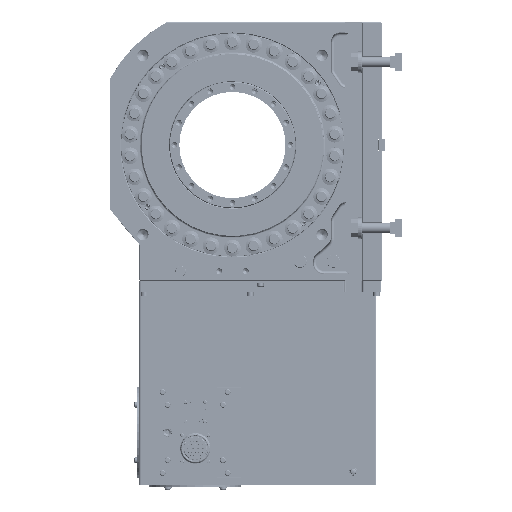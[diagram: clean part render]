
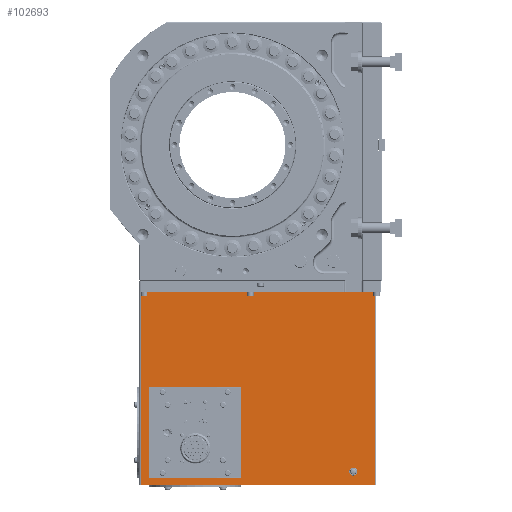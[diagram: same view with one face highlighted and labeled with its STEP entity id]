
A CAD part, left-side view. The second image highlights one B-rep face of the part: STEP entity #102693.
In plain terms, the highlighted planar face has unit normal (-1, 0, 0).
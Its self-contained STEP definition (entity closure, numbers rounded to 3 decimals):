
#295 = EDGE_CURVE ( 'NONE', #48266, #63851, #147151, .T. ) ;
#2418 = EDGE_LOOP ( 'NONE', ( #54733, #79225, #162653, #146783, #128313, #9713, #67542, #101937 ) ) ;
#2476 = AXIS2_PLACEMENT_3D ( 'NONE', #45567, #145572, #135598 ) ;
#3222 = VERTEX_POINT ( 'NONE', #142066 ) ;
#4148 = EDGE_CURVE ( 'NONE', #90103, #100322, #36767, .T. ) ;
#4218 = ORIENTED_EDGE ( 'NONE', *, *, #295, .T. ) ;
#5439 = EDGE_CURVE ( 'NONE', #20438, #3222, #105790, .T. ) ;
#8535 = LINE ( 'NONE', #99285, #80149 ) ;
#9713 = ORIENTED_EDGE ( 'NONE', *, *, #141612, .T. ) ;
#10143 = CARTESIAN_POINT ( 'NONE',  ( 13., 349., -297. ) ) ;
#15425 = VERTEX_POINT ( 'NONE', #36317 ) ;
#16191 = FACE_BOUND ( 'NONE', #2418, .T. ) ;
#16944 = CARTESIAN_POINT ( 'NONE',  ( 13., 211., -297. ) ) ;
#19020 = CIRCLE ( 'NONE', #111296, 3. ) ;
#20438 = VERTEX_POINT ( 'NONE', #79945 ) ;
#23304 = DIRECTION ( 'NONE',  ( 0., 0., -1. ) ) ;
#23644 = CARTESIAN_POINT ( 'NONE',  ( 13., 362., -307. ) ) ;
#24378 = VECTOR ( 'NONE', #157808, 1000. ) ;
#27150 = VERTEX_POINT ( 'NONE', #156600 ) ;
#27208 = ORIENTED_EDGE ( 'NONE', *, *, #39107, .F. ) ;
#28029 = VERTEX_POINT ( 'NONE', #148480 ) ;
#34546 = AXIS2_PLACEMENT_3D ( 'NONE', #151725, #153369, #87283 ) ;
#36317 = CARTESIAN_POINT ( 'NONE',  ( 13., 362., -17. ) ) ;
#36767 = CIRCLE ( 'NONE', #2476, 3. ) ;
#39107 = EDGE_CURVE ( 'NONE', #15425, #123807, #132769, .T. ) ;
#40498 = VERTEX_POINT ( 'NONE', #61067 ) ;
#41487 = DIRECTION ( 'NONE',  ( 0., 0., 1. ) ) ;
#42327 = CARTESIAN_POINT ( 'NONE',  ( 13., 214., -159. ) ) ;
#43359 = PLANE ( 'NONE',  #82979 ) ;
#45567 = CARTESIAN_POINT ( 'NONE',  ( 13., 214., -162. ) ) ;
#45699 = CARTESIAN_POINT ( 'NONE',  ( 13., 349., -159. ) ) ;
#47342 = EDGE_CURVE ( 'NONE', #20438, #100322, #106133, .T. ) ;
#47429 = LINE ( 'NONE', #161469, #53680 ) ;
#47839 = CARTESIAN_POINT ( 'NONE',  ( 13., 42., -287. ) ) ;
#48266 = VERTEX_POINT ( 'NONE', #23644 ) ;
#48661 = VERTEX_POINT ( 'NONE', #70552 ) ;
#49834 = EDGE_CURVE ( 'NONE', #109949, #48661, #19020, .T. ) ;
#51568 = EDGE_CURVE ( 'NONE', #123807, #63851, #95036, .T. ) ;
#51746 = EDGE_CURVE ( 'NONE', #28029, #27150, #143139, .T. ) ;
#53371 = DIRECTION ( 'NONE',  ( 0., 0., 1. ) ) ;
#53680 = VECTOR ( 'NONE', #60647, 1000. ) ;
#54733 = ORIENTED_EDGE ( 'NONE', *, *, #117578, .F. ) ;
#54736 = ORIENTED_EDGE ( 'NONE', *, *, #57157, .T. ) ;
#56560 = FACE_BOUND ( 'NONE', #104825, .T. ) ;
#57157 = EDGE_CURVE ( 'NONE', #27150, #28029, #114808, .T. ) ;
#57936 = CARTESIAN_POINT ( 'NONE',  ( 13., 9., -307. ) ) ;
#58086 = LINE ( 'NONE', #10143, #58444 ) ;
#58444 = VECTOR ( 'NONE', #160501, 1000. ) ;
#58696 = AXIS2_PLACEMENT_3D ( 'NONE', #47839, #123865, #61057 ) ;
#60647 = DIRECTION ( 'NONE',  ( 0., -1., 0. ) ) ;
#61057 = DIRECTION ( 'NONE',  ( 0., 0., -1. ) ) ;
#61067 = CARTESIAN_POINT ( 'NONE',  ( 13., 349., -294. ) ) ;
#63851 = VERTEX_POINT ( 'NONE', #103132 ) ;
#64540 = CARTESIAN_POINT ( 'NONE',  ( 13., 211., -162. ) ) ;
#65905 = EDGE_CURVE ( 'NONE', #15425, #48266, #8535, .T. ) ;
#66539 = CARTESIAN_POINT ( 'NONE',  ( 13., 9., -17. ) ) ;
#67542 = ORIENTED_EDGE ( 'NONE', *, *, #159537, .F. ) ;
#68424 = ORIENTED_EDGE ( 'NONE', *, *, #51568, .F. ) ;
#70552 = CARTESIAN_POINT ( 'NONE',  ( 13., 346., -159. ) ) ;
#73772 = CARTESIAN_POINT ( 'NONE',  ( 13., 349., -162. ) ) ;
#78121 = DIRECTION ( 'NONE',  ( 1., 0., 0. ) ) ;
#78201 = DIRECTION ( 'NONE',  ( 1., 0., 0. ) ) ;
#79225 = ORIENTED_EDGE ( 'NONE', *, *, #4148, .T. ) ;
#79945 = CARTESIAN_POINT ( 'NONE',  ( 13., 211., -294. ) ) ;
#80149 = VECTOR ( 'NONE', #23304, 1000. ) ;
#80564 = DIRECTION ( 'NONE',  ( 0., 1., 0. ) ) ;
#82979 = AXIS2_PLACEMENT_3D ( 'NONE', #66539, #78121, #80564 ) ;
#83701 = DIRECTION ( 'NONE',  ( 0., 1., 0. ) ) ;
#84242 = CARTESIAN_POINT ( 'NONE',  ( 13., 9., -17. ) ) ;
#87283 = DIRECTION ( 'NONE',  ( 0., 0., 1. ) ) ;
#90103 = VERTEX_POINT ( 'NONE', #42327 ) ;
#90218 = DIRECTION ( 'NONE',  ( 1., 0., 0. ) ) ;
#92147 = FACE_OUTER_BOUND ( 'NONE', #138198, .T. ) ;
#95036 = LINE ( 'NONE', #84242, #24378 ) ;
#98738 = VERTEX_POINT ( 'NONE', #121101 ) ;
#99285 = CARTESIAN_POINT ( 'NONE',  ( 13., 362., -17. ) ) ;
#100322 = VERTEX_POINT ( 'NONE', #64540 ) ;
#101937 = ORIENTED_EDGE ( 'NONE', *, *, #49834, .T. ) ;
#102693 = ADVANCED_FACE ( 'NONE', ( #56560, #16191, #92147 ), #43359, .F. ) ;
#103132 = CARTESIAN_POINT ( 'NONE',  ( 13., 9., -307. ) ) ;
#104328 = CARTESIAN_POINT ( 'NONE',  ( 13., 346., -162. ) ) ;
#104825 = EDGE_LOOP ( 'NONE', ( #54736, #131514 ) ) ;
#105790 = CIRCLE ( 'NONE', #34546, 3. ) ;
#106133 = LINE ( 'NONE', #16944, #121109 ) ;
#109949 = VERTEX_POINT ( 'NONE', #73772 ) ;
#110943 = CARTESIAN_POINT ( 'NONE',  ( 13., 9., -17. ) ) ;
#111236 = CARTESIAN_POINT ( 'NONE',  ( 13., 9., -17. ) ) ;
#111296 = AXIS2_PLACEMENT_3D ( 'NONE', #104328, #154731, #41487 ) ;
#114808 = CIRCLE ( 'NONE', #120020, 5.75 ) ;
#116059 = DIRECTION ( 'NONE',  ( 0., 0., 1. ) ) ;
#117578 = EDGE_CURVE ( 'NONE', #90103, #48661, #134921, .T. ) ;
#120020 = AXIS2_PLACEMENT_3D ( 'NONE', #153853, #90218, #156288 ) ;
#121101 = CARTESIAN_POINT ( 'NONE',  ( 13., 346., -297. ) ) ;
#121109 = VECTOR ( 'NONE', #116059, 1000. ) ;
#123807 = VERTEX_POINT ( 'NONE', #110943 ) ;
#123865 = DIRECTION ( 'NONE',  ( 1., 0., 0. ) ) ;
#128217 = CIRCLE ( 'NONE', #130805, 3. ) ;
#128313 = ORIENTED_EDGE ( 'NONE', *, *, #150674, .F. ) ;
#130805 = AXIS2_PLACEMENT_3D ( 'NONE', #155030, #78201, #53371 ) ;
#131514 = ORIENTED_EDGE ( 'NONE', *, *, #51746, .T. ) ;
#132769 = LINE ( 'NONE', #111236, #153585 ) ;
#134434 = VECTOR ( 'NONE', #83701, 1000. ) ;
#134921 = LINE ( 'NONE', #45699, #134434 ) ;
#135598 = DIRECTION ( 'NONE',  ( 0., 0., 1. ) ) ;
#136009 = DIRECTION ( 'NONE',  ( 0., -1., 0. ) ) ;
#138198 = EDGE_LOOP ( 'NONE', ( #4218, #68424, #27208, #145230 ) ) ;
#141612 = EDGE_CURVE ( 'NONE', #98738, #40498, #128217, .T. ) ;
#142066 = CARTESIAN_POINT ( 'NONE',  ( 13., 214., -297. ) ) ;
#143139 = CIRCLE ( 'NONE', #58696, 5.75 ) ;
#145230 = ORIENTED_EDGE ( 'NONE', *, *, #65905, .T. ) ;
#145572 = DIRECTION ( 'NONE',  ( 1., 0., 0. ) ) ;
#146783 = ORIENTED_EDGE ( 'NONE', *, *, #5439, .T. ) ;
#147151 = LINE ( 'NONE', #57936, #150555 ) ;
#148480 = CARTESIAN_POINT ( 'NONE',  ( 13., 42., -281.25 ) ) ;
#150555 = VECTOR ( 'NONE', #160356, 1000. ) ;
#150674 = EDGE_CURVE ( 'NONE', #98738, #3222, #47429, .T. ) ;
#151725 = CARTESIAN_POINT ( 'NONE',  ( 13., 214., -294. ) ) ;
#153369 = DIRECTION ( 'NONE',  ( 1., 0., 0. ) ) ;
#153585 = VECTOR ( 'NONE', #136009, 1000. ) ;
#153853 = CARTESIAN_POINT ( 'NONE',  ( 13., 42., -287. ) ) ;
#154731 = DIRECTION ( 'NONE',  ( 1., 0., 0. ) ) ;
#155030 = CARTESIAN_POINT ( 'NONE',  ( 13., 346., -294. ) ) ;
#156288 = DIRECTION ( 'NONE',  ( 0., 0., -1. ) ) ;
#156600 = CARTESIAN_POINT ( 'NONE',  ( 13., 42., -292.75 ) ) ;
#157808 = DIRECTION ( 'NONE',  ( 0., 0., -1. ) ) ;
#159537 = EDGE_CURVE ( 'NONE', #109949, #40498, #58086, .T. ) ;
#160356 = DIRECTION ( 'NONE',  ( 0., -1., 0. ) ) ;
#160501 = DIRECTION ( 'NONE',  ( 0., 0., -1. ) ) ;
#161469 = CARTESIAN_POINT ( 'NONE',  ( 13., 349., -297. ) ) ;
#162653 = ORIENTED_EDGE ( 'NONE', *, *, #47342, .F. ) ;
